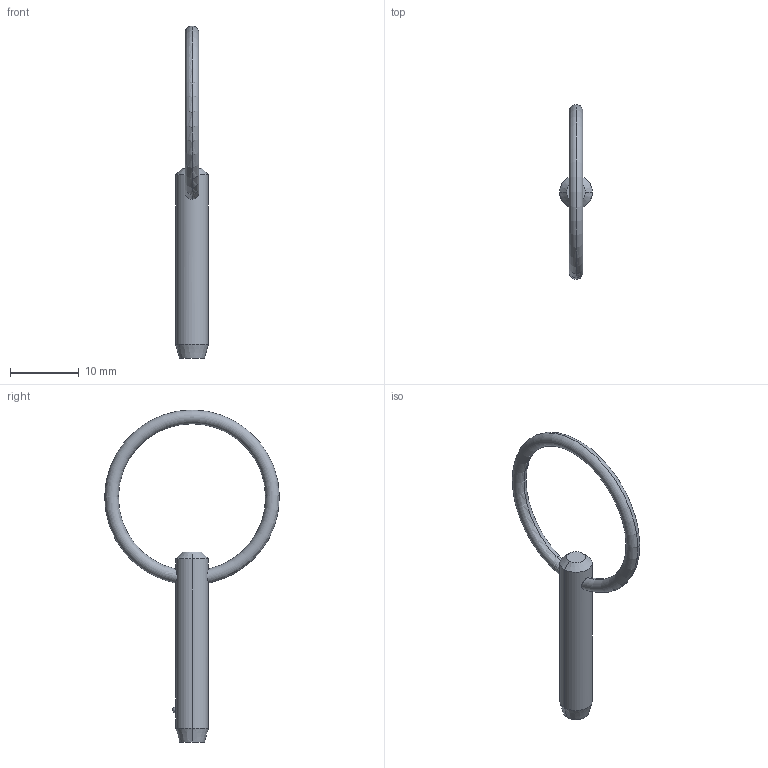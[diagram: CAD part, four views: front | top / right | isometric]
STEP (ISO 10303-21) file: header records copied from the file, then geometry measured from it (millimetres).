
FILE_DESCRIPTION (( 'STEP AP203' ), '1' );
FILE_NAME ('P1250.018-070.step', '2019-07-29T19:30:00', ( '' ), ( '' ), 'SwSTEP 2.0', 'SolidWorks 2017', '' );
FILE_SCHEMA (( 'CONFIG_CONTROL_DESIGN' ));
Length unit declared in the file: millimetre
Products named in the file (1): P1250.018-070
Bounding box: 4.76 x 25.4 x 48.28 mm (x, y, z)
Volume: 694.1 mm3; surface area: 856.2 mm2
Topology: 1 solids, 1 shells, 12 faces, 28 edges, 17 vertices
Faces by surface type: cone 4, torus 2, sphere 2, cylinder 2, plane 2
Entity records: 471 total; most frequent: CARTESIAN_POINT 138, DIRECTION 56, ORIENTED_EDGE 48, AXIS2_PLACEMENT_3D 25, EDGE_CURVE 24, EDGE_LOOP 15, VERTEX_POINT 15, ADVANCED_FACE 12
